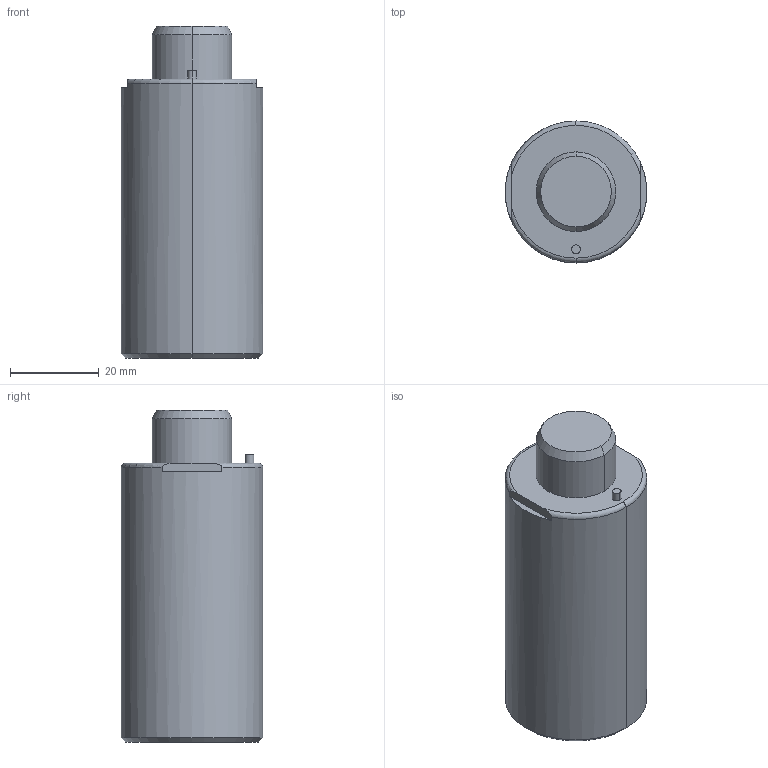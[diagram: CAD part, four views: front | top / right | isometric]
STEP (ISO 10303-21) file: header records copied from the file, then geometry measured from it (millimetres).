
FILE_DESCRIPTION(/* description */ (''),/* implementation_level */ '2;1');
FILE_NAME(/* name */ '3d_gsx32-10_03997_r00.stp',/* time_stamp */ '2011-01-10T14:15:14+09:00',/* author */ ('MISUMI'),/* organization */ (''),/* preprocessor_version */ 'ST-DEVELOPER v11',/* originating_system */ 'UGS - NX 5.0',/* authorisation */ '');
FILE_SCHEMA (('CONFIG_CONTROL_DESIGN'));
Length unit declared in the file: millimetre
Products named in the file (1): 3d_gsx32-10_03997_r00
Bounding box: 32 x 32 x 75 mm (x, y, z)
Volume: 52281 mm3; surface area: 9374.4 mm2
Topology: 1 solids, 1 shells, 45 faces, 98 edges, 60 vertices
Faces by surface type: cylinder 20, plane 13, cone 8, torus 4
Entity records: 1324 total; most frequent: DIRECTION 236, CARTESIAN_POINT 228, ORIENTED_EDGE 188, AXIS2_PLACEMENT_3D 100, EDGE_CURVE 94, VERTEX_POINT 60, EDGE_LOOP 54, CIRCLE 54
